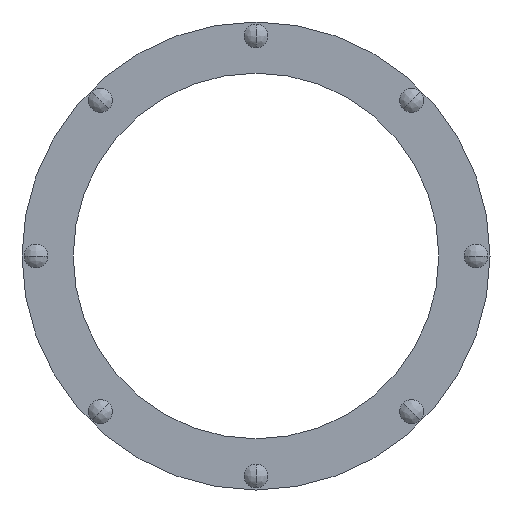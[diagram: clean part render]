
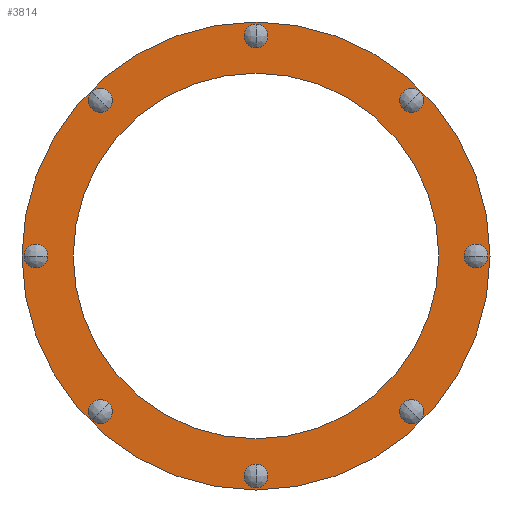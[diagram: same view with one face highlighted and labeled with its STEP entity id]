
A CAD part, front view. The second image highlights one B-rep face of the part: STEP entity #3814.
In plain terms, the highlighted planar face has unit normal (0, -1, 0).
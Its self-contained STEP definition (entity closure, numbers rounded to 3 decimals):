
#1329=CARTESIAN_POINT('',(0.,-151.,0.));
#1330=DIRECTION('',(0.,-1.,0.));
#1331=DIRECTION('',(-1.,0.,0.));
#1332=AXIS2_PLACEMENT_3D('',#1329,#1330,#1331);
#1338=CARTESIAN_POINT('',(0.,-151.,0.));
#1339=DIRECTION('',(0.,1.,0.));
#1340=DIRECTION('',(-1.,0.,0.));
#1341=AXIS2_PLACEMENT_3D('',#1338,#1339,#1340);
#1347=CARTESIAN_POINT('',(0.,-151.,0.));
#1348=DIRECTION('',(0.,-1.,0.));
#1349=DIRECTION('',(-1.,0.,0.));
#1350=AXIS2_PLACEMENT_3D('',#1347,#1348,#1349);
#1352=CARTESIAN_POINT('',(0.,-151.,0.));
#1353=DIRECTION('',(0.,1.,0.));
#1354=DIRECTION('',(-1.,0.,0.));
#1355=AXIS2_PLACEMENT_3D('',#1352,#1353,#1354);
#1357=CARTESIAN_POINT('',(-236.75,-151.,0.));
#1358=DIRECTION('',(0.,1.,0.));
#1359=DIRECTION('',(-1.,0.,0.));
#1360=AXIS2_PLACEMENT_3D('',#1357,#1358,#1359);
#1362=CARTESIAN_POINT('',(-236.75,-151.,0.));
#1363=DIRECTION('',(0.,1.,0.));
#1364=DIRECTION('',(1.,0.,0.));
#1365=AXIS2_PLACEMENT_3D('',#1362,#1363,#1364);
#1367=CARTESIAN_POINT('',(-167.408,-151.,-167.408));
#1368=DIRECTION('',(0.,1.,0.));
#1369=DIRECTION('',(-0.707,0.,-0.707));
#1370=AXIS2_PLACEMENT_3D('',#1367,#1368,#1369);
#1372=CARTESIAN_POINT('',(-167.408,-151.,-167.408));
#1373=DIRECTION('',(0.,1.,0.));
#1374=DIRECTION('',(0.707,0.,0.707));
#1375=AXIS2_PLACEMENT_3D('',#1372,#1373,#1374);
#1377=CARTESIAN_POINT('',(0.,-151.,-236.75));
#1378=DIRECTION('',(0.,1.,0.));
#1379=DIRECTION('',(0.,0.,-1.));
#1380=AXIS2_PLACEMENT_3D('',#1377,#1378,#1379);
#1382=CARTESIAN_POINT('',(0.,-151.,-236.75));
#1383=DIRECTION('',(0.,1.,0.));
#1384=DIRECTION('',(0.,0.,1.));
#1385=AXIS2_PLACEMENT_3D('',#1382,#1383,#1384);
#1387=CARTESIAN_POINT('',(167.408,-151.,-167.408));
#1388=DIRECTION('',(0.,1.,0.));
#1389=DIRECTION('',(0.707,0.,-0.707));
#1390=AXIS2_PLACEMENT_3D('',#1387,#1388,#1389);
#1392=CARTESIAN_POINT('',(167.408,-151.,-167.408));
#1393=DIRECTION('',(0.,1.,0.));
#1394=DIRECTION('',(-0.707,0.,0.707));
#1395=AXIS2_PLACEMENT_3D('',#1392,#1393,#1394);
#1397=CARTESIAN_POINT('',(236.75,-151.,0.));
#1398=DIRECTION('',(0.,1.,0.));
#1399=DIRECTION('',(1.,0.,0.));
#1400=AXIS2_PLACEMENT_3D('',#1397,#1398,#1399);
#1402=CARTESIAN_POINT('',(236.75,-151.,0.));
#1403=DIRECTION('',(0.,1.,0.));
#1404=DIRECTION('',(-1.,0.,0.));
#1405=AXIS2_PLACEMENT_3D('',#1402,#1403,#1404);
#1407=CARTESIAN_POINT('',(167.408,-151.,167.408));
#1408=DIRECTION('',(0.,1.,0.));
#1409=DIRECTION('',(0.707,0.,0.707));
#1410=AXIS2_PLACEMENT_3D('',#1407,#1408,#1409);
#1412=CARTESIAN_POINT('',(167.408,-151.,167.408));
#1413=DIRECTION('',(0.,1.,0.));
#1414=DIRECTION('',(-0.707,0.,-0.707));
#1415=AXIS2_PLACEMENT_3D('',#1412,#1413,#1414);
#1417=CARTESIAN_POINT('',(0.,-151.,236.75));
#1418=DIRECTION('',(0.,1.,0.));
#1419=DIRECTION('',(0.,0.,1.));
#1420=AXIS2_PLACEMENT_3D('',#1417,#1418,#1419);
#1422=CARTESIAN_POINT('',(0.,-151.,236.75));
#1423=DIRECTION('',(0.,1.,0.));
#1424=DIRECTION('',(0.,0.,-1.));
#1425=AXIS2_PLACEMENT_3D('',#1422,#1423,#1424);
#1427=CARTESIAN_POINT('',(-167.408,-151.,167.408));
#1428=DIRECTION('',(0.,1.,0.));
#1429=DIRECTION('',(-0.707,0.,0.707));
#1430=AXIS2_PLACEMENT_3D('',#1427,#1428,#1429);
#1432=CARTESIAN_POINT('',(-167.408,-151.,167.408));
#1433=DIRECTION('',(0.,1.,0.));
#1434=DIRECTION('',(0.707,0.,-0.707));
#1435=AXIS2_PLACEMENT_3D('',#1432,#1433,#1434);
#2627=CARTESIAN_POINT('',(-251.75,-151.,0.));
#2629=VERTEX_POINT('',#2627);
#2630=CARTESIAN_POINT('',(-196.75,-151.,0.));
#2632=VERTEX_POINT('',#2630);
#2645=CARTESIAN_POINT('',(251.75,-151.,0.));
#2647=VERTEX_POINT('',#2645);
#2648=CARTESIAN_POINT('',(196.75,-151.,0.));
#2650=VERTEX_POINT('',#2648);
#2718=CARTESIAN_POINT('',(-249.5,-151.,0.));
#2719=VERTEX_POINT('',#2718);
#2720=CARTESIAN_POINT('',(-224.,-151.,0.));
#2721=VERTEX_POINT('',#2720);
#2760=CARTESIAN_POINT('',(-176.423,-151.,-176.423));
#2761=VERTEX_POINT('',#2760);
#2762=CARTESIAN_POINT('',(-158.392,-151.,-158.392));
#2763=VERTEX_POINT('',#2762);
#2802=CARTESIAN_POINT('',(0.,-151.,-249.5));
#2803=VERTEX_POINT('',#2802);
#2804=CARTESIAN_POINT('',(0.,-151.,-224.));
#2805=VERTEX_POINT('',#2804);
#2844=CARTESIAN_POINT('',(176.423,-151.,-176.423));
#2845=VERTEX_POINT('',#2844);
#2846=CARTESIAN_POINT('',(158.392,-151.,-158.392));
#2847=VERTEX_POINT('',#2846);
#2886=CARTESIAN_POINT('',(249.5,-151.,0.));
#2887=VERTEX_POINT('',#2886);
#2888=CARTESIAN_POINT('',(224.,-151.,0.));
#2889=VERTEX_POINT('',#2888);
#2928=CARTESIAN_POINT('',(176.423,-151.,176.423));
#2929=VERTEX_POINT('',#2928);
#2930=CARTESIAN_POINT('',(158.392,-151.,158.392));
#2931=VERTEX_POINT('',#2930);
#2990=CARTESIAN_POINT('',(0.,-151.,249.5));
#2991=VERTEX_POINT('',#2990);
#2992=CARTESIAN_POINT('',(0.,-151.,224.));
#2993=VERTEX_POINT('',#2992);
#3032=CARTESIAN_POINT('',(-176.423,-151.,176.423));
#3033=VERTEX_POINT('',#3032);
#3034=CARTESIAN_POINT('',(-158.392,-151.,158.392));
#3035=VERTEX_POINT('',#3034);
#3751=CARTESIAN_POINT('',(0.,-151.,0.));
#3752=DIRECTION('',(0.,-1.,0.));
#3753=DIRECTION('',(-1.,0.,0.));
#3754=AXIS2_PLACEMENT_3D('',#3751,#3752,#3753);
#3755=PLANE('',#3754);
#3757=ORIENTED_EDGE('',*,*,#3756,.F.);
#3759=ORIENTED_EDGE('',*,*,#3758,.T.);
#3760=EDGE_LOOP('',(#3757,#3759));
#3761=FACE_OUTER_BOUND('',#3760,.F.);
#3762=ORIENTED_EDGE('',*,*,#3744,.F.);
#3763=ORIENTED_EDGE('',*,*,#3733,.T.);
#3764=EDGE_LOOP('',(#3762,#3763));
#3765=FACE_BOUND('',#3764,.F.);
#3767=ORIENTED_EDGE('',*,*,#3766,.F.);
#3769=ORIENTED_EDGE('',*,*,#3768,.F.);
#3770=EDGE_LOOP('',(#3767,#3769));
#3771=FACE_BOUND('',#3770,.F.);
#3773=ORIENTED_EDGE('',*,*,#3772,.F.);
#3775=ORIENTED_EDGE('',*,*,#3774,.F.);
#3776=EDGE_LOOP('',(#3773,#3775));
#3777=FACE_BOUND('',#3776,.F.);
#3779=ORIENTED_EDGE('',*,*,#3778,.F.);
#3781=ORIENTED_EDGE('',*,*,#3780,.F.);
#3782=EDGE_LOOP('',(#3779,#3781));
#3783=FACE_BOUND('',#3782,.F.);
#3785=ORIENTED_EDGE('',*,*,#3784,.F.);
#3787=ORIENTED_EDGE('',*,*,#3786,.F.);
#3788=EDGE_LOOP('',(#3785,#3787));
#3789=FACE_BOUND('',#3788,.F.);
#3791=ORIENTED_EDGE('',*,*,#3790,.F.);
#3793=ORIENTED_EDGE('',*,*,#3792,.F.);
#3794=EDGE_LOOP('',(#3791,#3793));
#3795=FACE_BOUND('',#3794,.F.);
#3797=ORIENTED_EDGE('',*,*,#3796,.F.);
#3799=ORIENTED_EDGE('',*,*,#3798,.F.);
#3800=EDGE_LOOP('',(#3797,#3799));
#3801=FACE_BOUND('',#3800,.F.);
#3803=ORIENTED_EDGE('',*,*,#3802,.F.);
#3805=ORIENTED_EDGE('',*,*,#3804,.F.);
#3806=EDGE_LOOP('',(#3803,#3805));
#3807=FACE_BOUND('',#3806,.F.);
#3809=ORIENTED_EDGE('',*,*,#3808,.F.);
#3811=ORIENTED_EDGE('',*,*,#3810,.F.);
#3812=EDGE_LOOP('',(#3809,#3811));
#3813=FACE_BOUND('',#3812,.F.);
#3814=ADVANCED_FACE('',(#3761,#3765,#3771,#3777,#3783,#3789,#3795,#3801,#3807,
#3813),#3755,.T.);
#1333=CIRCLE('',#1332,196.75);
#1342=CIRCLE('',#1341,196.75);
#1351=CIRCLE('',#1350,251.75);
#1356=CIRCLE('',#1355,251.75);
#1361=CIRCLE('',#1360,12.75);
#1366=CIRCLE('',#1365,12.75);
#1371=CIRCLE('',#1370,12.75);
#1376=CIRCLE('',#1375,12.75);
#1381=CIRCLE('',#1380,12.75);
#1386=CIRCLE('',#1385,12.75);
#1391=CIRCLE('',#1390,12.75);
#1396=CIRCLE('',#1395,12.75);
#1401=CIRCLE('',#1400,12.75);
#1406=CIRCLE('',#1405,12.75);
#1411=CIRCLE('',#1410,12.75);
#1416=CIRCLE('',#1415,12.75);
#1421=CIRCLE('',#1420,12.75);
#1426=CIRCLE('',#1425,12.75);
#1431=CIRCLE('',#1430,12.75);
#1436=CIRCLE('',#1435,12.75);
#3733=EDGE_CURVE('',#2632,#2650,#1333,.T.);
#3744=EDGE_CURVE('',#2632,#2650,#1342,.T.);
#3756=EDGE_CURVE('',#2629,#2647,#1351,.T.);
#3758=EDGE_CURVE('',#2629,#2647,#1356,.T.);
#3766=EDGE_CURVE('',#2719,#2721,#1361,.T.);
#3768=EDGE_CURVE('',#2721,#2719,#1366,.T.);
#3772=EDGE_CURVE('',#2761,#2763,#1371,.T.);
#3774=EDGE_CURVE('',#2763,#2761,#1376,.T.);
#3778=EDGE_CURVE('',#2803,#2805,#1381,.T.);
#3780=EDGE_CURVE('',#2805,#2803,#1386,.T.);
#3784=EDGE_CURVE('',#2845,#2847,#1391,.T.);
#3786=EDGE_CURVE('',#2847,#2845,#1396,.T.);
#3790=EDGE_CURVE('',#2887,#2889,#1401,.T.);
#3792=EDGE_CURVE('',#2889,#2887,#1406,.T.);
#3796=EDGE_CURVE('',#2929,#2931,#1411,.T.);
#3798=EDGE_CURVE('',#2931,#2929,#1416,.T.);
#3802=EDGE_CURVE('',#2991,#2993,#1421,.T.);
#3804=EDGE_CURVE('',#2993,#2991,#1426,.T.);
#3808=EDGE_CURVE('',#3033,#3035,#1431,.T.);
#3810=EDGE_CURVE('',#3035,#3033,#1436,.T.);
